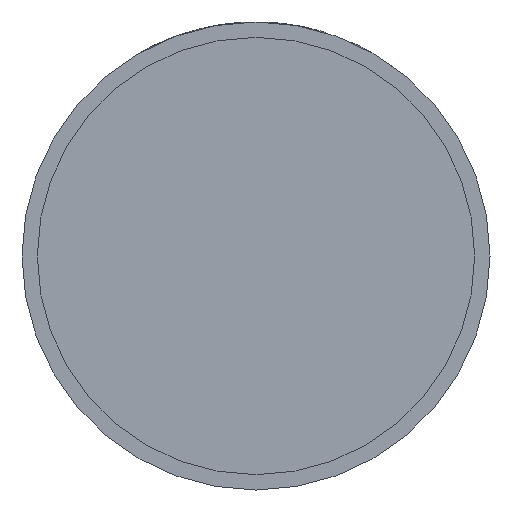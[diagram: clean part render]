
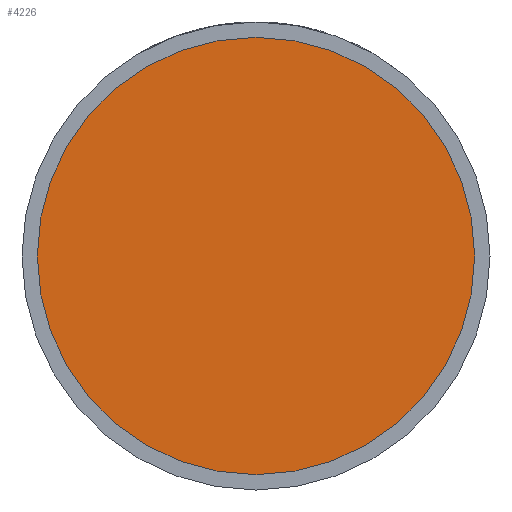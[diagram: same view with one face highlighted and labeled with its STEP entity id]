
A CAD part, front view. The second image highlights one B-rep face of the part: STEP entity #4226.
In plain terms, the highlighted planar face has unit normal (0, -1, 0).
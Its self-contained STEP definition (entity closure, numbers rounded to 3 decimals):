
#265 = AXIS2_PLACEMENT_3D ( 'NONE', #745, #479, #4091 ) ;
#473 = CARTESIAN_POINT ( 'NONE',  ( 28.5, -17.5, 0. ) ) ;
#479 = DIRECTION ( 'NONE',  ( 0., -1., 0. ) ) ;
#745 = CARTESIAN_POINT ( 'NONE',  ( 0., -17.5, 0. ) ) ;
#1005 = EDGE_LOOP ( 'NONE', ( #1720, #3031 ) ) ;
#1085 = PLANE ( 'NONE',  #4145 ) ;
#1317 = AXIS2_PLACEMENT_3D ( 'NONE', #2082, #3748, #3314 ) ;
#1362 = DIRECTION ( 'NONE',  ( 0., -1., 0. ) ) ;
#1581 = VERTEX_POINT ( 'NONE', #473 ) ;
#1668 = DIRECTION ( 'NONE',  ( 1., 0., 0. ) ) ;
#1720 = ORIENTED_EDGE ( 'NONE', *, *, #3886, .T. ) ;
#1990 = EDGE_CURVE ( 'NONE', #3021, #1581, #3656, .T. ) ;
#2081 = CIRCLE ( 'NONE', #1317, 28.5 ) ;
#2082 = CARTESIAN_POINT ( 'NONE',  ( 0., -17.5, 0. ) ) ;
#2403 = CARTESIAN_POINT ( 'NONE',  ( 28.5, -17.5, 0. ) ) ;
#3009 = FACE_OUTER_BOUND ( 'NONE', #1005, .T. ) ;
#3021 = VERTEX_POINT ( 'NONE', #3575 ) ;
#3031 = ORIENTED_EDGE ( 'NONE', *, *, #1990, .T. ) ;
#3314 = DIRECTION ( 'NONE',  ( 1., 0., 0. ) ) ;
#3575 = CARTESIAN_POINT ( 'NONE',  ( -28.5, -17.5, 0. ) ) ;
#3656 = CIRCLE ( 'NONE', #265, 28.5 ) ;
#3748 = DIRECTION ( 'NONE',  ( 0., -1., 0. ) ) ;
#3886 = EDGE_CURVE ( 'NONE', #1581, #3021, #2081, .T. ) ;
#4091 = DIRECTION ( 'NONE',  ( 1., 0., 0. ) ) ;
#4145 = AXIS2_PLACEMENT_3D ( 'NONE', #2403, #1362, #1668 ) ;
#4226 = ADVANCED_FACE ( 'NONE', ( #3009 ), #1085, .T. ) ;
